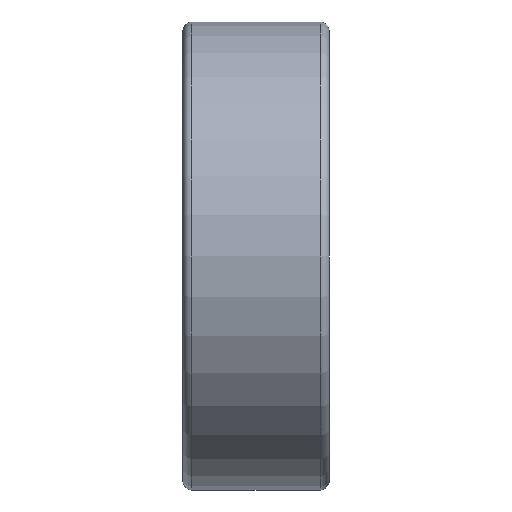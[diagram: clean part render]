
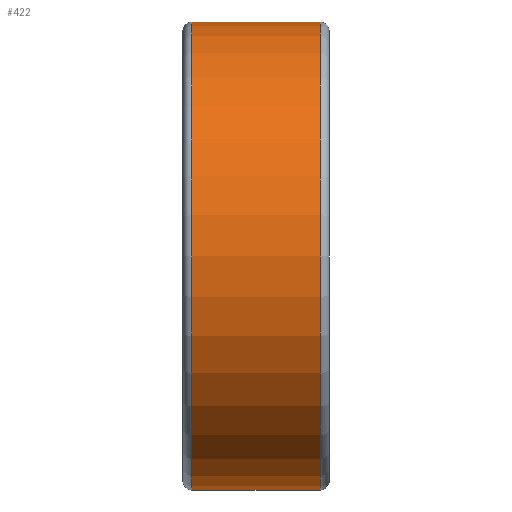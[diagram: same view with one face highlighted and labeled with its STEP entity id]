
A CAD part, front view. The second image highlights one B-rep face of the part: STEP entity #422.
In plain terms, the highlighted cylindrical face has radius 16 mm (diameter 32 mm), a full revolution.
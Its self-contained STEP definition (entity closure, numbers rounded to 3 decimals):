
#143=CYLINDRICAL_SURFACE('',#638,16.);
#211=EDGE_LOOP('',(#291));
#212=EDGE_LOOP('',(#292));
#291=ORIENTED_EDGE('',*,*,#339,.F.);
#292=ORIENTED_EDGE('',*,*,#337,.T.);
#337=EDGE_CURVE('',#581,#581,#357,.T.);
#339=EDGE_CURVE('',#583,#583,#359,.T.);
#357=CIRCLE('',#634,16.);
#359=CIRCLE('',#637,16.);
#422=ADVANCED_FACE('',(#515,#516),#143,.T.);
#515=FACE_BOUND('',#211,.T.);
#516=FACE_BOUND('',#212,.T.);
#581=VERTEX_POINT('',#2018);
#583=VERTEX_POINT('',#2023);
#634=AXIS2_PLACEMENT_3D('',#2017,#738,#739);
#637=AXIS2_PLACEMENT_3D('',#2022,#744,#745);
#638=AXIS2_PLACEMENT_3D('',#2024,#746,#747);
#738=DIRECTION('',(1.,0.,0.));
#739=DIRECTION('',(0.,0.,-1.));
#744=DIRECTION('',(1.,0.,0.));
#745=DIRECTION('',(0.,0.,-1.));
#746=DIRECTION('',(1.,0.,0.));
#747=DIRECTION('',(0.,0.,-1.));
#2017=CARTESIAN_POINT('',(-4.4,0.,0.));
#2018=CARTESIAN_POINT('',(-4.4,0.,-16.));
#2022=CARTESIAN_POINT('',(4.4,0.,0.));
#2023=CARTESIAN_POINT('',(4.4,0.,-16.));
#2024=CARTESIAN_POINT('',(-4.4,0.,0.));
